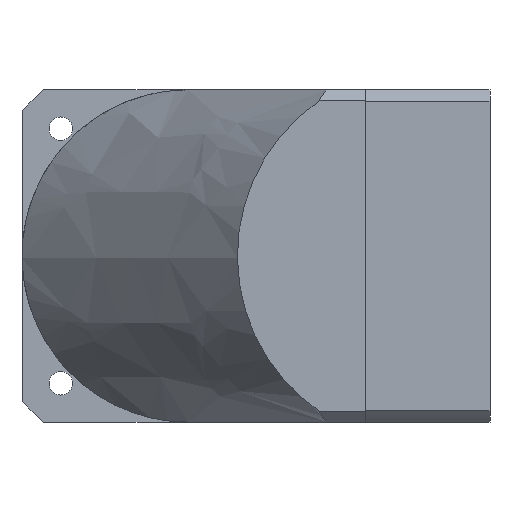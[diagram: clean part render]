
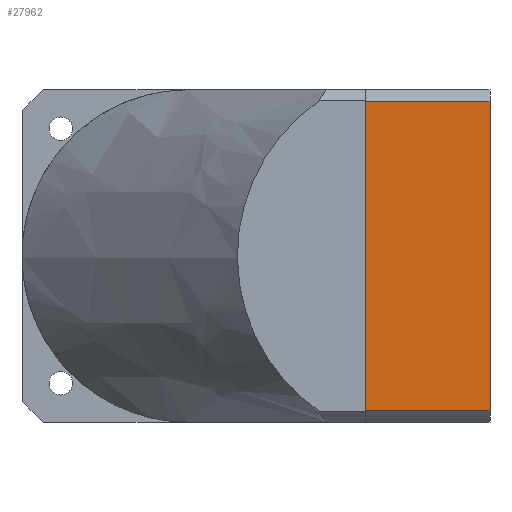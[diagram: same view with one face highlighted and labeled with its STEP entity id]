
A CAD part, front view. The second image highlights one B-rep face of the part: STEP entity #27962.
In plain terms, the highlighted planar face has unit normal (0, -1, 0).
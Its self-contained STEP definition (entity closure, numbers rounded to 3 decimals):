
#401 = LINE ( 'NONE', #45412, #25901 ) ;
#1007 = CARTESIAN_POINT ( 'NONE',  ( 55.893, -60., -45. ) ) ;
#1230 = PLANE ( 'NONE',  #22695 ) ;
#1383 = DIRECTION ( 'NONE',  ( 0., 0., -1. ) ) ;
#2510 = CARTESIAN_POINT ( 'NONE',  ( -55.893, -60., 0. ) ) ;
#2580 = FACE_OUTER_BOUND ( 'NONE', #21328, .T. ) ;
#3011 = VECTOR ( 'NONE', #19871, 1000. ) ;
#10172 = ORIENTED_EDGE ( 'NONE', *, *, #24446, .T. ) ;
#11033 = CARTESIAN_POINT ( 'NONE',  ( 55.893, -60., 0. ) ) ;
#11091 = CARTESIAN_POINT ( 'NONE',  ( -55.893, -60., -45. ) ) ;
#11256 = VERTEX_POINT ( 'NONE', #11091 ) ;
#11901 = DIRECTION ( 'NONE',  ( 0., 0., 1. ) ) ;
#12240 = LINE ( 'NONE', #2510, #40026 ) ;
#12996 = VECTOR ( 'NONE', #11901, 1000. ) ;
#15277 = EDGE_CURVE ( 'NONE', #11256, #30686, #401, .T. ) ;
#17715 = ORIENTED_EDGE ( 'NONE', *, *, #15277, .T. ) ;
#19871 = DIRECTION ( 'NONE',  ( -1., 0., 0. ) ) ;
#21328 = EDGE_LOOP ( 'NONE', ( #23133, #17715, #10172, #24487 ) ) ;
#22667 = LINE ( 'NONE', #1007, #12996 ) ;
#22695 = AXIS2_PLACEMENT_3D ( 'NONE', #37309, #23099, #1383 ) ;
#23099 = DIRECTION ( 'NONE',  ( 0., -1., 0. ) ) ;
#23133 = ORIENTED_EDGE ( 'NONE', *, *, #36226, .F. ) ;
#24446 = EDGE_CURVE ( 'NONE', #30686, #42156, #22667, .T. ) ;
#24487 = ORIENTED_EDGE ( 'NONE', *, *, #41443, .T. ) ;
#25901 = VECTOR ( 'NONE', #34813, 1000. ) ;
#27962 = ADVANCED_FACE ( 'NONE', ( #2580 ), #1230, .T. ) ;
#30686 = VERTEX_POINT ( 'NONE', #34826 ) ;
#30781 = LINE ( 'NONE', #30818, #3011 ) ;
#30818 = CARTESIAN_POINT ( 'NONE',  ( 0., -60., 0. ) ) ;
#34813 = DIRECTION ( 'NONE',  ( 1., 0., 0. ) ) ;
#34826 = CARTESIAN_POINT ( 'NONE',  ( 55.893, -60., -45. ) ) ;
#35235 = CARTESIAN_POINT ( 'NONE',  ( -55.893, -60., 0. ) ) ;
#36226 = EDGE_CURVE ( 'NONE', #11256, #38959, #12240, .T. ) ;
#37309 = CARTESIAN_POINT ( 'NONE',  ( -60., -60., -45. ) ) ;
#38738 = DIRECTION ( 'NONE',  ( 0., 0., 1. ) ) ;
#38959 = VERTEX_POINT ( 'NONE', #35235 ) ;
#40026 = VECTOR ( 'NONE', #38738, 1000. ) ;
#41443 = EDGE_CURVE ( 'NONE', #42156, #38959, #30781, .T. ) ;
#42156 = VERTEX_POINT ( 'NONE', #11033 ) ;
#45412 = CARTESIAN_POINT ( 'NONE',  ( -60., -60., -45. ) ) ;
